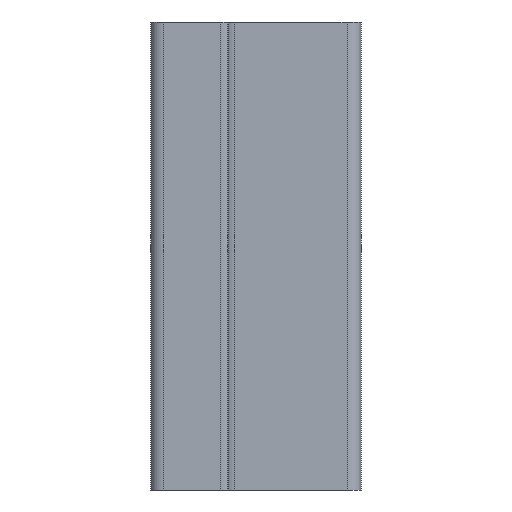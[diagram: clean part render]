
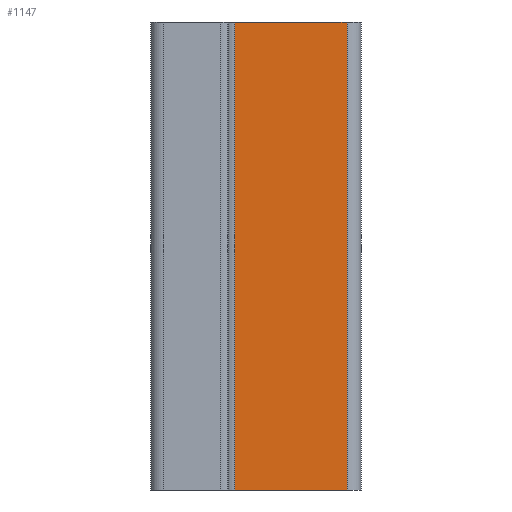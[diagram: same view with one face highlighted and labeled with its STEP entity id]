
A CAD part, left-side view. The second image highlights one B-rep face of the part: STEP entity #1147.
In plain terms, the highlighted planar face has unit normal (-1, 0, 0).
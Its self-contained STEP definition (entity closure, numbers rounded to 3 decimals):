
#83 = VECTOR ( 'NONE', #680, 1000. ) ;
#144 = FACE_OUTER_BOUND ( 'NONE', #250, .T. ) ;
#181 = CARTESIAN_POINT ( 'NONE',  ( -17.5, 9.5, 100. ) ) ;
#198 = EDGE_CURVE ( 'NONE', #1031, #539, #751, .T. ) ;
#217 = CARTESIAN_POINT ( 'NONE',  ( -17.5, -9.5, 0. ) ) ;
#225 = LINE ( 'NONE', #573, #83 ) ;
#250 = EDGE_LOOP ( 'NONE', ( #312, #1047, #847, #264 ) ) ;
#264 = ORIENTED_EDGE ( 'NONE', *, *, #1181, .T. ) ;
#287 = DIRECTION ( 'NONE',  ( 0., 1., 0. ) ) ;
#300 = EDGE_CURVE ( 'NONE', #544, #539, #511, .T. ) ;
#312 = ORIENTED_EDGE ( 'NONE', *, *, #300, .T. ) ;
#495 = CARTESIAN_POINT ( 'NONE',  ( -17.5, -14.5, 100. ) ) ;
#511 = LINE ( 'NONE', #217, #924 ) ;
#539 = VERTEX_POINT ( 'NONE', #832 ) ;
#544 = VERTEX_POINT ( 'NONE', #732 ) ;
#548 = VECTOR ( 'NONE', #1251, 1000. ) ;
#573 = CARTESIAN_POINT ( 'NONE',  ( -17.5, -9.5, 100. ) ) ;
#666 = CARTESIAN_POINT ( 'NONE',  ( -17.5, -9.5, 100. ) ) ;
#673 = DIRECTION ( 'NONE',  ( 1., 0., 0. ) ) ;
#680 = DIRECTION ( 'NONE',  ( 0., -1., 0. ) ) ;
#732 = CARTESIAN_POINT ( 'NONE',  ( -17.5, 9.5, 0. ) ) ;
#751 = LINE ( 'NONE', #495, #993 ) ;
#808 = LINE ( 'NONE', #181, #548 ) ;
#832 = CARTESIAN_POINT ( 'NONE',  ( -17.5, -14.5, 0. ) ) ;
#847 = ORIENTED_EDGE ( 'NONE', *, *, #1160, .F. ) ;
#899 = AXIS2_PLACEMENT_3D ( 'NONE', #666, #673, #287 ) ;
#924 = VECTOR ( 'NONE', #1003, 1000. ) ;
#930 = CARTESIAN_POINT ( 'NONE',  ( -17.5, -14.5, 100. ) ) ;
#993 = VECTOR ( 'NONE', #1183, 1000. ) ;
#1003 = DIRECTION ( 'NONE',  ( 0., -1., 0. ) ) ;
#1031 = VERTEX_POINT ( 'NONE', #930 ) ;
#1047 = ORIENTED_EDGE ( 'NONE', *, *, #198, .F. ) ;
#1147 = ADVANCED_FACE ( 'NONE', ( #144 ), #1269, .F. ) ;
#1160 = EDGE_CURVE ( 'NONE', #1218, #1031, #225, .T. ) ;
#1181 = EDGE_CURVE ( 'NONE', #1218, #544, #808, .T. ) ;
#1183 = DIRECTION ( 'NONE',  ( 0., 0., -1. ) ) ;
#1218 = VERTEX_POINT ( 'NONE', #1264 ) ;
#1251 = DIRECTION ( 'NONE',  ( 0., 0., -1. ) ) ;
#1264 = CARTESIAN_POINT ( 'NONE',  ( -17.5, 9.5, 100. ) ) ;
#1269 = PLANE ( 'NONE',  #899 ) ;
